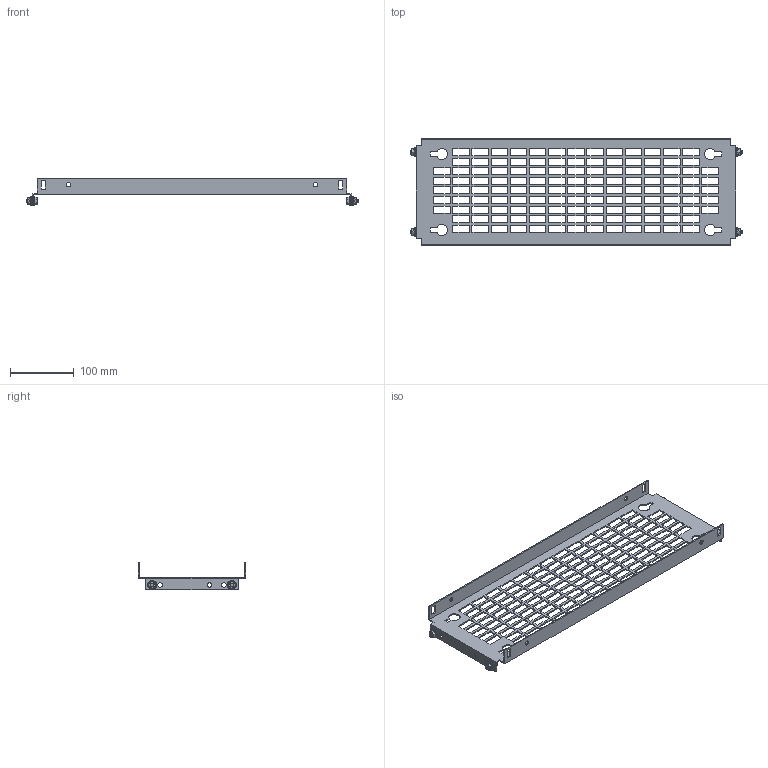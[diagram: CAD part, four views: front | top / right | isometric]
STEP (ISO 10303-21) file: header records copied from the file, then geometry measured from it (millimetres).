
FILE_DESCRIPTION(('Open CASCADE Model'),'2;1');
FILE_NAME('Open CASCADE Shape Model','2025-02-19T16:48:10',('Author'),( 'Open CASCADE'),'Open CASCADE STEP processor 7.8','Open CASCADE 7.8' ,'Unknown');
FILE_SCHEMA(('AUTOMOTIVE_DESIGN { 1 0 10303 214 1 1 1 1 }'));
Length unit declared in the file: millimetre
Products named in the file (4): Compound1; Solid1; Solid2; Solid3
Assembly tree (9 placements, depth 2):
  Compound1
    Solid1
    Solid2  x4
    Solid3  x4
Bounding box: 520 x 169 x 43 mm (x, y, z)
Volume: 153456.3 mm3; surface area: 175983.8 mm2
Topology: 9 solids, 9 shells, 800 faces, 2229 edges, 1451 vertices
Faces by surface type: plane 642, cone 68, bspline 48, cylinder 30, torus 12
Full cylindrical faces by diameter (mm): 5 x4, 6 x8, 7 x14
Entity records: 22062 total; most frequent: CARTESIAN_POINT 4391, ORIENTED_EDGE 3780, DIRECTION 3162, EDGE_CURVE 1890, LINE 1732, VECTOR 1732, VERTEX_POINT 1253, FACE_BOUND 945
